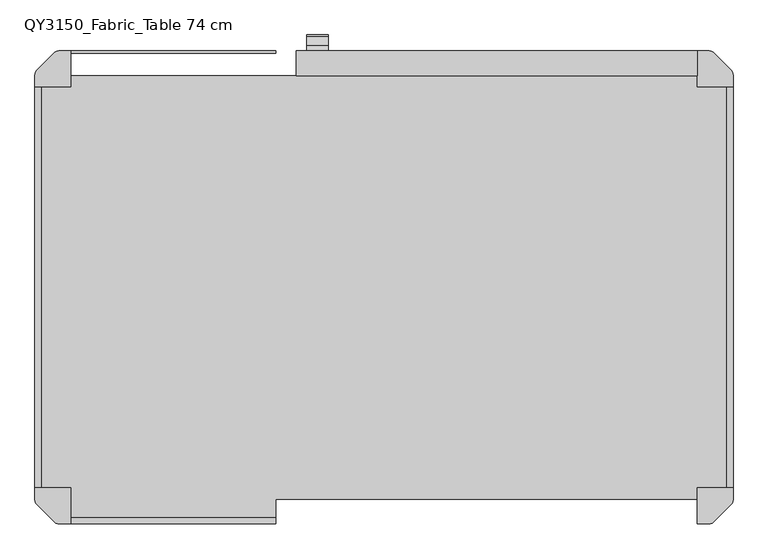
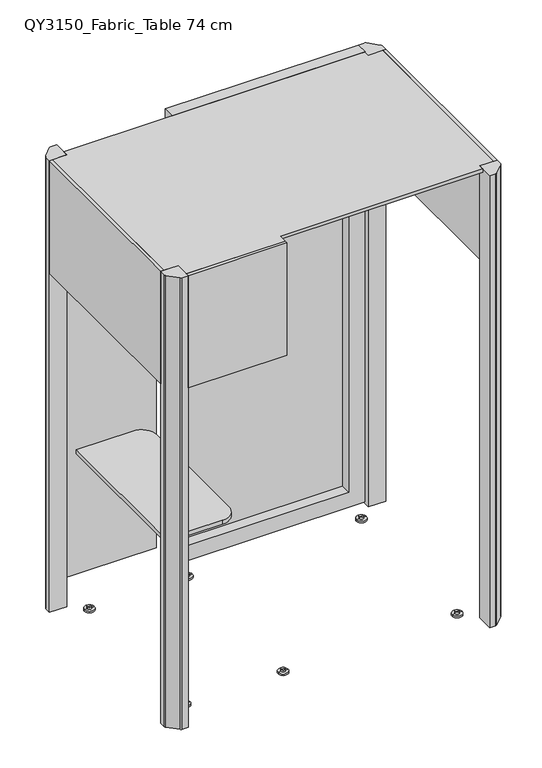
"""IFC4 building model written with IfcOpenShell, lengths in millimetres: furniture geometry, Qyos_150 : QY3150_Fabric_Table 74 cm."""

from ifc_helpers import new_model, si_unit, point, frame, frame_2d, origin, origin_with_axes, place, context, project, spatial, polyline, circle_curve, trimmed, segment, composite_curve, outline, extrude, source, transform, mapped, element, save
from ifc_brep_helpers import plane_surface, cylinder_surface, revolved_surface, advanced_brep


def qy3150_fabric_table_74_cm_f5e0ff44(model_context):
    return source(origin(), model_context, "Body", "SolidModel", [
        extrude(outline(composite_curve([segment(polyline([(-701.0, 358.0), (-441.0, 358.0)]), True, "CONTINUOUS"), segment(trimmed(circle_curve(frame_2d((-441.0, 288.0)), 70.0), [point((-441.0, 358.0))], [point((-371.0, 288.0))], False, "CARTESIAN"), True, "CONTINUOUS"), segment(polyline([(-371.0, 288.0), (-371.0, -288.0)]), True, "CONTINUOUS"), segment(trimmed(circle_curve(frame_2d((-441.0, -288.0)), 70.0), [point((-371.0, -288.0))], [point((-441.0, -358.0))], False, "CARTESIAN"), True, "CONTINUOUS"), segment(polyline([(-441.0, -358.0), (-701.0, -358.0), (-701.0, 358.0)]), True, "CONTINUOUS")], self_intersect=False)), frame((0.0, 0.0, 800.0), z_axis=(0.0, 0.0, 1.0), x_axis=(1.0, 0.0, 0.0)), (0.0, 0.0, 1.0), 19.0),
        advanced_brep(
        [(-124.0102042, 525.6314016, 980.9779398), (-124.0102042, 537.1968679, 985.7672556), (-124.0102042, 557.5610872, 1017.1254034), (-124.0102042, 560.5, 1025.2), (-124.0102042, 560.5, 1186.1919919), (-124.0102042, 557.7819627, 1194.5572505), (-124.0102042, 537.162848, 1226.3079029), (-124.0102042, 525.6314016, 1230.9669096), (-124.0102042, 525.6314016, 1224.0702851), (-124.0102042, 536.4262787, 1221.4167571), (-124.0102042, 553.2020658, 1196.5456299), (-124.0102042, 557.6320377, 1173.7554001), (-124.0102042, 557.6320377, 1028.7554001), (-124.0102042, 555.0438473, 1019.0961419), (-124.0102042, 537.9469969, 991.7354618), (-124.0102042, 525.6314016, 985.9647191), (-171.9580619, 525.6314016, 1230.9669096), (-171.9580619, 537.162848, 1226.3079029), (-171.9580619, 557.7819627, 1194.5572505), (-171.9580619, 560.5, 1186.1919919), (-171.9580619, 560.5, 1025.2), (-171.9580619, 557.5610872, 1017.1254034), (-171.9580619, 537.1968679, 985.7672556), (-171.9580619, 525.6314016, 980.9779398), (-169.2887865, 525.6314016, 985.9647191), (-169.2887865, 525.6314016, 1224.0702851), (-169.2887865, 537.9469969, 991.7354618), (-169.2887865, 555.0438473, 1019.0961419), (-169.2887865, 557.6320377, 1028.7554001), (-169.2887865, 557.6320377, 1173.7554001), (-169.2887865, 553.2020658, 1196.5456299), (-169.2887865, 536.4262787, 1221.4167571)],
        [
            (0, 1, circle_curve(frame((-124.0102042, 527.6091735, 992.560998), z_axis=(1.0, 0.0, 0.0), x_axis=(0.0, 1.0, 0.0)), 11.7506945)),
            (1, 2, circle_curve(frame((-124.0102042, 160.5394908, 1252.6628295), z_axis=(1.0, 0.0, 0.0), x_axis=(0.0, 1.0, 0.0)), 461.6319174)),
            (2, 3, circle_curve(frame((-124.0102042, 513.525418, 1037.7252129), z_axis=(1.0, 0.0, 0.0), x_axis=(0.0, 1.0, 0.0)), 48.615762)),
            (3, 4),
            (4, 5, circle_curve(frame((-124.0102042, 541.7589098, 1184.7268438), z_axis=(1.0, 0.0, 0.0), x_axis=(0.0, 1.0, 0.0)), 18.7982744)),
            (5, 6, circle_curve(frame((-124.0102042, -71.0762231, 808.7424006), z_axis=(1.0, 0.0, 0.0), x_axis=(0.0, 1.0, 0.0)), 737.777552)),
            (6, 7, circle_curve(frame((-124.0102042, 527.4087289, 1218.7657801), z_axis=(1.0, 0.0, 0.0), x_axis=(0.0, 1.0, 0.0)), 12.3299009)),
            (7, 8),
            (8, 9, circle_curve(frame((-124.0102042, 525.6314016, 1200.7860796), z_axis=(-1.0, 0.0, 0.0), x_axis=(0.0, 1.0, 0.0)), 23.2842055)),
            (9, 10, circle_curve(frame((-124.0102042, 812.3576761, 1389.4415655), z_axis=(1.0, 0.0, 0.0), x_axis=(0.0, 1.0, 0.0)), 323.0641922)),
            (10, 11, circle_curve(frame((-124.0102042, 496.7942676, 1173.7554001), z_axis=(-1.0, 0.0, 0.0), x_axis=(0.0, 1.0, 0.0)), 60.8377701)),
            (11, 12),
            (12, 13, circle_curve(frame((-124.0102042, 540.0644692, 1028.286235), z_axis=(-1.0, 0.0, 0.0), x_axis=(0.0, 1.0, 0.0)), 17.5738323)),
            (13, 14, circle_curve(frame((-124.0102042, -1120.4570487, 2047.0433119), z_axis=(-1.0, 0.0, 0.0), x_axis=(0.0, 1.0, 0.0)), 1965.7005461)),
            (14, 15, circle_curve(frame((-124.0102042, 525.4805644, 1002.3136249), z_axis=(-1.0, 0.0, 0.0), x_axis=(0.0, 1.0, 0.0)), 16.3496016)),
            (15, 0),
            (16, 17, circle_curve(frame((-171.9580619, 527.4087289, 1218.7657801), z_axis=(-1.0, 0.0, 0.0), x_axis=(0.0, 1.0, 0.0)), 12.3299009)),
            (17, 18, circle_curve(frame((-171.9580619, -71.0762231, 808.7424006), z_axis=(-1.0, 0.0, 0.0), x_axis=(0.0, 1.0, 0.0)), 737.777552)),
            (18, 19, circle_curve(frame((-171.9580619, 541.7589098, 1184.7268438), z_axis=(-1.0, 0.0, 0.0), x_axis=(0.0, 1.0, 0.0)), 18.7982744)),
            (19, 20),
            (20, 21, circle_curve(frame((-171.9580619, 513.525418, 1037.7252129), z_axis=(-1.0, 0.0, 0.0), x_axis=(0.0, 1.0, 0.0)), 48.615762)),
            (21, 22, circle_curve(frame((-171.9580619, 160.5394908, 1252.6628295), z_axis=(-1.0, 0.0, 0.0), x_axis=(0.0, 1.0, 0.0)), 461.6319174)),
            (22, 23, circle_curve(frame((-171.9580619, 527.6091735, 992.560998), z_axis=(-1.0, 0.0, 0.0), x_axis=(0.0, 1.0, 0.0)), 11.7506945)),
            (23, 16),
            (23, 0),
            (15, 24),
            (24, 25),
            (25, 8),
            (7, 16),
            (22, 1),
            (21, 2),
            (20, 3),
            (19, 4),
            (18, 5),
            (17, 6),
            (26, 27, circle_curve(frame((-169.2887865, -1120.4570487, 2047.0433119), z_axis=(1.0, 0.0, 0.0), x_axis=(0.0, 1.0, 0.0)), 1965.7005461)),
            (27, 28, circle_curve(frame((-169.2887865, 540.0644692, 1028.286235), z_axis=(1.0, 0.0, 0.0), x_axis=(0.0, 1.0, 0.0)), 17.5738323)),
            (28, 29),
            (29, 30, circle_curve(frame((-169.2887865, 496.7942676, 1173.7554001), z_axis=(1.0, 0.0, 0.0), x_axis=(0.0, 1.0, 0.0)), 60.8377701)),
            (30, 31, circle_curve(frame((-169.2887865, 812.3576761, 1389.4415655), z_axis=(-1.0, 0.0, 0.0), x_axis=(0.0, 1.0, 0.0)), 323.0641922)),
            (31, 25, circle_curve(frame((-169.2887865, 525.6314016, 1200.7860796), z_axis=(1.0, 0.0, 0.0), x_axis=(0.0, 1.0, 0.0)), 23.2842055)),
            (24, 26, circle_curve(frame((-169.2887865, 525.4805644, 1002.3136249), z_axis=(1.0, 0.0, 0.0), x_axis=(0.0, 1.0, 0.0)), 16.3496016)),
            (14, 26),
            (13, 27),
            (12, 28),
            (11, 29),
            (10, 30),
            (9, 31),
        ],
        [
            plane_surface(frame((-124.0102042, 525.6314016, 980.9779398), z_axis=(1.0, 0.0, 0.0), x_axis=(0.0, 0.0, -1.0))),
            plane_surface(frame((-171.9580619, 525.6314016, 980.9779398), z_axis=(-1.0, 0.0, 0.0), x_axis=(0.0, 0.0, 1.0))),
            plane_surface(frame((-124.0102042, 525.6314016, 1230.9669096), z_axis=(0.0, -1.0, 0.0), x_axis=(-1.0, 0.0, 0.0))),
            cylinder_surface(frame((-171.9580619, 527.6091735, 992.560998), z_axis=(1.0, 0.0, 0.0), x_axis=(0.0, 1.0, 0.0)), 11.7506945),
            cylinder_surface(frame((-171.9580619, 160.5394908, 1252.6628295), z_axis=(1.0, 0.0, 0.0), x_axis=(0.0, 1.0, 0.0)), 461.6319174),
            cylinder_surface(frame((-171.9580619, 513.525418, 1037.7252129), z_axis=(1.0, 0.0, 0.0), x_axis=(0.0, 1.0, 0.0)), 48.615762),
            plane_surface(frame((-124.0102042, 560.5, 1025.2), z_axis=(0.0, 1.0, 0.0), x_axis=(-1.0, 0.0, 0.0))),
            cylinder_surface(frame((-171.9580619, 541.7589098, 1184.7268438), z_axis=(1.0, 0.0, 0.0), x_axis=(0.0, 1.0, 0.0)), 18.7982744),
            cylinder_surface(frame((-171.9580619, -71.0762231, 808.7424006), z_axis=(1.0, 0.0, 0.0), x_axis=(0.0, 1.0, 0.0)), 737.777552),
            cylinder_surface(frame((-171.9580619, 527.4087289, 1218.7657801), z_axis=(1.0, 0.0, 0.0), x_axis=(0.0, 1.0, 0.0)), 12.3299009),
            plane_surface(frame((-169.2887865, 511.7185794, 1224.0702851), z_axis=(1.0, 0.0, 0.0), x_axis=(0.0, 0.0, 1.0))),
            revolved_surface(polyline([(-124.0102042, 541.8301660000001, 1002.3136249), (-169.2887865, 541.8301660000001, 1002.3136249)]), (-169.2887865, 525.4805644, 1002.3136249), (1.0, 0.0, 0.0)),
            revolved_surface(polyline([(-124.0102042, 845.2434974, 2047.0433119), (-169.2887865, 845.2434974, 2047.0433119)]), (-169.2887865, -1120.4570487, 2047.0433119), (1.0, 0.0, 0.0)),
            revolved_surface(polyline([(-124.0102042, 557.6383015, 1028.286235), (-169.2887865, 557.6383015, 1028.286235)]), (-169.2887865, 540.0644692, 1028.286235), (1.0, 0.0, 0.0)),
            plane_surface(frame((-116.8041752, 557.6320377, 1028.7554001), z_axis=(0.0, -1.0, 0.0), x_axis=(-1.0, 0.0, 0.0))),
            revolved_surface(polyline([(-124.0102042, 557.6320377, 1173.7554001), (-169.2887865, 557.6320377, 1173.7554001)]), (-169.2887865, 496.7942676, 1173.7554001), (1.0, 0.0, 0.0)),
            cylinder_surface(frame((-169.2887865, 812.3576761, 1389.4415655), z_axis=(-1.0, 0.0, 0.0), x_axis=(0.0, 1.0, 0.0)), 323.0641922),
            revolved_surface(polyline([(-124.0102042, 548.9156071, 1200.7860796), (-169.2887865, 548.9156071, 1200.7860796)]), (-169.2887865, 525.6314016, 1200.7860796), (1.0, 0.0, 0.0)),
        ],
        [
            (0, [[1, 2, 3, 4, 5, 6, 7, 8, 9, 10, 11, 12, 13, 14, 15, 16]]),
            (1, [[17, 18, 19, 20, 21, 22, 23, 24]]),
            (2, [[-24, 25, -16, 26, 27, 28, -8, 29]]),
            (3, [[-1, -25, -23, 30]]),
            (4, [[-2, -30, -22, 31]]),
            (5, [[-3, -31, -21, 32]]),
            (6, [[-4, -32, -20, 33]]),
            (7, [[-5, -33, -19, 34]]),
            (8, [[-6, -34, -18, 35]]),
            (9, [[-7, -35, -17, -29]]),
            (10, [[36, 37, 38, 39, 40, 41, -27, 42]]),
            (11, [[-42, -26, -15, 43]]),
            (12, [[-36, -43, -14, 44]]),
            (13, [[-37, -44, -13, 45]]),
            (14, [[-38, -45, -12, 46]]),
            (15, [[-39, -46, -11, 47]]),
            (16, [[-40, -47, -10, 48]]),
            (17, [[-41, -48, -9, -28]]),
        ],
    ),
        extrude(outline(composite_curve([segment(polyline([(1230.9669096, -127.0104804), (1230.9669096, -166.9737674)]), True, "CONTINUOUS"), segment(trimmed(circle_curve(frame_2d((1225.973762, -166.9737674)), 4.9931477), [point((1230.9669096, -166.9737674))], [point((1225.973762, -171.966915))], False, "CARTESIAN"), True, "CONTINUOUS"), segment(polyline([(1225.973762, -171.966915), (985.9710874, -171.966915)]), True, "CONTINUOUS"), segment(trimmed(circle_curve(frame_2d((985.9710874, -166.9737674)), 4.9931477), [point((985.9710874, -171.966915))], [point((980.9779398, -166.9737674))], False, "CARTESIAN"), True, "CONTINUOUS"), segment(polyline([(980.9779398, -166.9737674), (980.9779398, -127.008286)]), True, "CONTINUOUS"), segment(trimmed(circle_curve(frame_2d((983.9760215, -127.008286)), 2.9980817), [point((980.9779398, -127.008286))], [point((983.9760215, -124.0102042))], False, "CARTESIAN"), True, "CONTINUOUS"), segment(polyline([(983.9760215, -124.0102042), (985.9777208, -124.0102042)]), True, "CONTINUOUS"), segment(trimmed(circle_curve(frame_2d((985.9777208, -126.2607973)), 2.2505931), [point((985.9777208, -124.0102042))], [point((988.1941223, -125.8699859))], False, "CARTESIAN"), True, "CONTINUOUS"), segment(trimmed(circle_curve(frame_2d((1002.686839, -125.065358)), 14.5150358), [point((988.1941223, -125.8699859))], [point((999.6402401, -139.2570632))], True, "CARTESIAN"), True, "CONTINUOUS"), segment(trimmed(circle_curve(frame_2d((999.3564071, -147.27634)), 8.0242982), [point((999.6402401, -139.2570632))], [point((1007.3803501, -147.3518321))], False, "CARTESIAN"), True, "CONTINUOUS"), segment(trimmed(circle_curve(frame_2d((984.8527266, -150.8883916)), 22.803532), [point((1007.3803501, -147.3518321))], [point((1007.3098217, -154.8481834))], False, "CARTESIAN"), True, "CONTINUOUS"), segment(trimmed(circle_curve(frame_2d((1018.7344643, -156.8626561)), 11.600886), [point((1007.3098217, -154.8481834))], [point((1018.7344643, -168.4635421))], True, "CARTESIAN"), True, "CONTINUOUS"), segment(polyline([(1018.7344643, -168.4635421), (1193.2103851, -168.4635421)]), True, "CONTINUOUS"), segment(trimmed(circle_curve(frame_2d((1193.2103851, -156.4965825)), 11.9669596), [point((1193.2103851, -168.4635421))], [point((1205.1773447, -156.4965825))], True, "CARTESIAN"), True, "CONTINUOUS"), segment(polyline([(1205.1773447, -156.4965825), (1205.1773447, -147.9646776)]), True, "CONTINUOUS"), segment(trimmed(circle_curve(frame_2d((1213.8757406, -147.9646776)), 8.6983958), [point((1205.1773447, -147.9646776))], [point((1212.36528, -139.3984299))], False, "CARTESIAN"), True, "CONTINUOUS"), segment(trimmed(circle_curve(frame_2d((1209.9037954, -125.4386571)), 14.1751248), [point((1212.36528, -139.3984299))], [point((1224.0702851, -125.9333618))], True, "CARTESIAN"), True, "CONTINUOUS"), segment(trimmed(circle_curve(frame_2d((1225.9934427, -125.9333618)), 1.9231576), [point((1224.0702851, -125.9333618))], [point((1225.9934427, -124.0102042))], False, "CARTESIAN"), True, "CONTINUOUS"), segment(polyline([(1225.9934427, -124.0102042), (1227.9666334, -124.0102042)]), True, "CONTINUOUS"), segment(trimmed(circle_curve(frame_2d((1227.9666334, -127.0104804)), 3.0002762), [point((1227.9666334, -124.0102042))], [point((1230.9669096, -127.0104804))], False, "CARTESIAN"), True, "CONTINUOUS")], self_intersect=False)), frame((0.0, 525.0, 0.0), z_axis=(0.0, 1.0, 0.0), x_axis=(0.0, 0.0, 1.0)), (0.0, 0.0, 1.0), 0.6314016),
        advanced_brep(
        [(-124.0102042, 469.3642803, 980.9779398), (-124.0102042, 469.3642803, 985.9647191), (-124.0102042, 457.048685, 991.7354618), (-124.0102042, 439.9518346, 1019.0961419), (-124.0102042, 437.3636441, 1028.7554001), (-124.0102042, 437.3636441, 1173.7554001), (-124.0102042, 441.7936161, 1196.5456299), (-124.0102042, 458.5694032, 1221.4167571), (-124.0102042, 469.3642803, 1224.0702851), (-124.0102042, 469.3642803, 1230.9669096), (-124.0102042, 457.8328339, 1226.3079029), (-124.0102042, 437.2137192, 1194.5572505), (-124.0102042, 434.4956819, 1186.1919919), (-124.0102042, 434.4956819, 1025.2), (-124.0102042, 437.4345947, 1017.1254034), (-124.0102042, 457.798814, 985.7672556), (-171.9580619, 469.3642803, 1230.9669096), (-171.9580619, 469.3642803, 980.9779398), (-171.9580619, 457.798814, 985.7672556), (-171.9580619, 437.4345947, 1017.1254034), (-171.9580619, 434.4956819, 1025.2), (-171.9580619, 434.4956819, 1186.1919919), (-171.9580619, 437.2137192, 1194.5572505), (-171.9580619, 457.8328339, 1226.3079029), (-169.2887865, 469.3642803, 1224.0702851), (-169.2887865, 469.3642803, 985.9647191), (-169.2887865, 457.048685, 991.7354618), (-169.2887865, 458.5694032, 1221.4167571), (-169.2887865, 441.7936161, 1196.5456299), (-169.2887865, 437.3636441, 1173.7554001), (-169.2887865, 437.3636441, 1028.7554001), (-169.2887865, 439.9518346, 1019.0961419)],
        [
            (0, 1),
            (1, 2, circle_curve(frame((-124.0102042, 469.5151175, 1002.3136249), z_axis=(-1.0, 0.0, 0.0), x_axis=(0.0, -1.0, 0.0)), 16.3496016)),
            (2, 3, circle_curve(frame((-124.0102042, 2115.4527306, 2047.0433119), z_axis=(-1.0, 0.0, 0.0), x_axis=(0.0, -1.0, 0.0)), 1965.7005461)),
            (3, 4, circle_curve(frame((-124.0102042, 454.9312127, 1028.286235), z_axis=(-1.0, 0.0, 0.0), x_axis=(0.0, -1.0, 0.0)), 17.5738323)),
            (4, 5),
            (5, 6, circle_curve(frame((-124.0102042, 498.2014142, 1173.7554001), z_axis=(-1.0, 0.0, 0.0), x_axis=(0.0, -1.0, 0.0)), 60.8377701)),
            (6, 7, circle_curve(frame((-124.0102042, 182.6380058, 1389.4415655), z_axis=(1.0, 0.0, 0.0), x_axis=(0.0, -1.0, 0.0)), 323.0641922)),
            (7, 8, circle_curve(frame((-124.0102042, 469.3642803, 1200.7860796), z_axis=(-1.0, 0.0, 0.0), x_axis=(0.0, -1.0, 0.0)), 23.2842055)),
            (8, 9),
            (9, 10, circle_curve(frame((-124.0102042, 467.586953, 1218.7657801), z_axis=(1.0, 0.0, 0.0), x_axis=(0.0, -1.0, 0.0)), 12.3299009)),
            (10, 11, circle_curve(frame((-124.0102042, 1066.071905, 808.7424006), z_axis=(1.0, 0.0, 0.0), x_axis=(0.0, -1.0, 0.0)), 737.777552)),
            (11, 12, circle_curve(frame((-124.0102042, 453.236772, 1184.7268438), z_axis=(1.0, 0.0, 0.0), x_axis=(0.0, -1.0, 0.0)), 18.7982744)),
            (12, 13),
            (13, 14, circle_curve(frame((-124.0102042, 481.4702639, 1037.7252129), z_axis=(1.0, 0.0, 0.0), x_axis=(0.0, -1.0, 0.0)), 48.615762)),
            (14, 15, circle_curve(frame((-124.0102042, 834.4561911, 1252.6628295), z_axis=(1.0, 0.0, 0.0), x_axis=(0.0, -1.0, 0.0)), 461.6319174)),
            (15, 0, circle_curve(frame((-124.0102042, 467.3865084, 992.560998), z_axis=(1.0, 0.0, 0.0), x_axis=(0.0, -1.0, 0.0)), 11.7506945)),
            (16, 17),
            (17, 18, circle_curve(frame((-171.9580619, 467.3865084, 992.560998), z_axis=(-1.0, 0.0, 0.0), x_axis=(0.0, -1.0, 0.0)), 11.7506945)),
            (18, 19, circle_curve(frame((-171.9580619, 834.4561911, 1252.6628295), z_axis=(-1.0, 0.0, 0.0), x_axis=(0.0, -1.0, 0.0)), 461.6319174)),
            (19, 20, circle_curve(frame((-171.9580619, 481.4702639, 1037.7252129), z_axis=(-1.0, 0.0, 0.0), x_axis=(0.0, -1.0, 0.0)), 48.615762)),
            (20, 21),
            (21, 22, circle_curve(frame((-171.9580619, 453.236772, 1184.7268438), z_axis=(-1.0, 0.0, 0.0), x_axis=(0.0, -1.0, 0.0)), 18.7982744)),
            (22, 23, circle_curve(frame((-171.9580619, 1066.071905, 808.7424006), z_axis=(-1.0, 0.0, 0.0), x_axis=(0.0, -1.0, 0.0)), 737.777552)),
            (23, 16, circle_curve(frame((-171.9580619, 467.586953, 1218.7657801), z_axis=(-1.0, 0.0, 0.0), x_axis=(0.0, -1.0, 0.0)), 12.3299009)),
            (16, 9),
            (8, 24),
            (24, 25),
            (25, 1),
            (0, 17),
            (15, 18),
            (14, 19),
            (13, 20),
            (12, 21),
            (11, 22),
            (10, 23),
            (26, 25, circle_curve(frame((-169.2887865, 469.5151175, 1002.3136249), z_axis=(1.0, 0.0, 0.0), x_axis=(0.0, -1.0, 0.0)), 16.3496016)),
            (24, 27, circle_curve(frame((-169.2887865, 469.3642803, 1200.7860796), z_axis=(1.0, 0.0, 0.0), x_axis=(0.0, -1.0, 0.0)), 23.2842055)),
            (27, 28, circle_curve(frame((-169.2887865, 182.6380058, 1389.4415655), z_axis=(-1.0, 0.0, 0.0), x_axis=(0.0, -1.0, 0.0)), 323.0641922)),
            (28, 29, circle_curve(frame((-169.2887865, 498.2014142, 1173.7554001), z_axis=(1.0, 0.0, 0.0), x_axis=(0.0, -1.0, 0.0)), 60.8377701)),
            (29, 30),
            (30, 31, circle_curve(frame((-169.2887865, 454.9312127, 1028.286235), z_axis=(1.0, 0.0, 0.0), x_axis=(0.0, -1.0, 0.0)), 17.5738323)),
            (31, 26, circle_curve(frame((-169.2887865, 2115.4527306, 2047.0433119), z_axis=(1.0, 0.0, 0.0), x_axis=(0.0, -1.0, 0.0)), 1965.7005461)),
            (26, 2),
            (31, 3),
            (30, 4),
            (29, 5),
            (28, 6),
            (27, 7),
        ],
        [
            plane_surface(frame((-124.0102042, 469.3642803, 980.9779398), z_axis=(1.0, 0.0, 0.0), x_axis=(0.0, 0.0, -1.0))),
            plane_surface(frame((-171.9580619, 469.3642803, 980.9779398), z_axis=(-1.0, 0.0, 0.0), x_axis=(0.0, 0.0, 1.0))),
            plane_surface(frame((-124.0102042, 469.3642803, 1230.9669096), z_axis=(0.0, 1.0, 0.0), x_axis=(-1.0, 0.0, 0.0))),
            cylinder_surface(frame((-171.9580619, 467.3865084, 992.560998), z_axis=(1.0, 0.0, 0.0), x_axis=(0.0, -1.0, 0.0)), 11.7506945),
            cylinder_surface(frame((-171.9580619, 834.4561911, 1252.6628295), z_axis=(1.0, 0.0, 0.0), x_axis=(0.0, -1.0, 0.0)), 461.6319174),
            cylinder_surface(frame((-171.9580619, 481.4702639, 1037.7252129), z_axis=(1.0, 0.0, 0.0), x_axis=(0.0, -1.0, 0.0)), 48.615762),
            plane_surface(frame((-124.0102042, 434.4956819, 1025.2), z_axis=(0.0, -1.0, 0.0), x_axis=(-1.0, 0.0, 0.0))),
            cylinder_surface(frame((-171.9580619, 453.236772, 1184.7268438), z_axis=(1.0, 0.0, 0.0), x_axis=(0.0, -1.0, 0.0)), 18.7982744),
            cylinder_surface(frame((-171.9580619, 1066.071905, 808.7424006), z_axis=(1.0, 0.0, 0.0), x_axis=(0.0, -1.0, 0.0)), 737.777552),
            cylinder_surface(frame((-171.9580619, 467.586953, 1218.7657801), z_axis=(1.0, 0.0, 0.0), x_axis=(0.0, -1.0, 0.0)), 12.3299009),
            plane_surface(frame((-169.2887865, 483.2771024, 1224.0702851), z_axis=(1.0, 0.0, 0.0), x_axis=(0.0, 0.0, 1.0))),
            revolved_surface(polyline([(-124.0102042, 453.16551589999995, 1002.3136249), (-169.2887865, 453.16551589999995, 1002.3136249)]), (-169.2887865, 469.5151175, 1002.3136249), (1.0, 0.0, 0.0)),
            revolved_surface(polyline([(-124.0102042, 149.75218449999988, 2047.0433119), (-169.2887865, 149.75218449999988, 2047.0433119)]), (-169.2887865, 2115.4527306, 2047.0433119), (1.0, 0.0, 0.0)),
            revolved_surface(polyline([(-124.0102042, 437.3573804, 1028.286235), (-169.2887865, 437.3573804, 1028.286235)]), (-169.2887865, 454.9312127, 1028.286235), (1.0, 0.0, 0.0)),
            plane_surface(frame((-116.8041752, 437.3636441, 1028.7554001), z_axis=(0.0, 1.0, 0.0), x_axis=(-1.0, 0.0, 0.0))),
            revolved_surface(polyline([(-124.0102042, 437.3636441, 1173.7554001), (-169.2887865, 437.3636441, 1173.7554001)]), (-169.2887865, 498.2014142, 1173.7554001), (1.0, 0.0, 0.0)),
            cylinder_surface(frame((-169.2887865, 182.6380058, 1389.4415655), z_axis=(-1.0, 0.0, 0.0), x_axis=(0.0, -1.0, 0.0)), 323.0641922),
            revolved_surface(polyline([(-124.0102042, 446.08007480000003, 1200.7860796), (-169.2887865, 446.08007480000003, 1200.7860796)]), (-169.2887865, 469.3642803, 1200.7860796), (1.0, 0.0, 0.0)),
        ],
        [
            (0, [[1, 2, 3, 4, 5, 6, 7, 8, 9, 10, 11, 12, 13, 14, 15, 16]]),
            (1, [[17, 18, 19, 20, 21, 22, 23, 24]]),
            (2, [[25, -9, 26, 27, 28, -1, 29, -17]]),
            (3, [[30, -18, -29, -16]]),
            (4, [[31, -19, -30, -15]]),
            (5, [[32, -20, -31, -14]]),
            (6, [[33, -21, -32, -13]]),
            (7, [[34, -22, -33, -12]]),
            (8, [[35, -23, -34, -11]]),
            (9, [[-25, -24, -35, -10]]),
            (10, [[36, -27, 37, 38, 39, 40, 41, 42]]),
            (11, [[43, -2, -28, -36]]),
            (12, [[44, -3, -43, -42]]),
            (13, [[45, -4, -44, -41]]),
            (14, [[46, -5, -45, -40]]),
            (15, [[47, -6, -46, -39]]),
            (16, [[48, -7, -47, -38]]),
            (17, [[-26, -8, -48, -37]]),
        ],
    ),
        extrude(outline(composite_curve([segment(polyline([(1230.9669096, -127.0104804), (1230.9669096, -166.9737674)]), True, "CONTINUOUS"), segment(trimmed(circle_curve(frame_2d((1225.973762, -166.9737674)), 4.9931477), [point((1230.9669096, -166.9737674))], [point((1225.973762, -171.966915))], False, "CARTESIAN"), True, "CONTINUOUS"), segment(polyline([(1225.973762, -171.966915), (985.9710874, -171.966915)]), True, "CONTINUOUS"), segment(trimmed(circle_curve(frame_2d((985.9710874, -166.9737674)), 4.9931477), [point((985.9710874, -171.966915))], [point((980.9779398, -166.9737674))], False, "CARTESIAN"), True, "CONTINUOUS"), segment(polyline([(980.9779398, -166.9737674), (980.9779398, -127.008286)]), True, "CONTINUOUS"), segment(trimmed(circle_curve(frame_2d((983.9760215, -127.008286)), 2.9980817), [point((980.9779398, -127.008286))], [point((983.9760215, -124.0102042))], False, "CARTESIAN"), True, "CONTINUOUS"), segment(polyline([(983.9760215, -124.0102042), (985.9777208, -124.0102042)]), True, "CONTINUOUS"), segment(trimmed(circle_curve(frame_2d((985.9777208, -126.2607973)), 2.2505931), [point((985.9777208, -124.0102042))], [point((988.1941223, -125.8699859))], False, "CARTESIAN"), True, "CONTINUOUS"), segment(trimmed(circle_curve(frame_2d((1002.686839, -125.065358)), 14.5150358), [point((988.1941223, -125.8699859))], [point((999.6402401, -139.2570632))], True, "CARTESIAN"), True, "CONTINUOUS"), segment(trimmed(circle_curve(frame_2d((999.3564071, -147.27634)), 8.0242982), [point((999.6402401, -139.2570632))], [point((1007.3803501, -147.3518321))], False, "CARTESIAN"), True, "CONTINUOUS"), segment(trimmed(circle_curve(frame_2d((984.8527266, -150.8883916)), 22.803532), [point((1007.3803501, -147.3518321))], [point((1007.3098217, -154.8481834))], False, "CARTESIAN"), True, "CONTINUOUS"), segment(trimmed(circle_curve(frame_2d((1018.7344643, -156.8626561)), 11.600886), [point((1007.3098217, -154.8481834))], [point((1018.7344643, -168.4635421))], True, "CARTESIAN"), True, "CONTINUOUS"), segment(polyline([(1018.7344643, -168.4635421), (1193.2103851, -168.4635421)]), True, "CONTINUOUS"), segment(trimmed(circle_curve(frame_2d((1193.2103851, -156.4965825)), 11.9669596), [point((1193.2103851, -168.4635421))], [point((1205.1773447, -156.4965825))], True, "CARTESIAN"), True, "CONTINUOUS"), segment(polyline([(1205.1773447, -156.4965825), (1205.1773447, -147.9646776)]), True, "CONTINUOUS"), segment(trimmed(circle_curve(frame_2d((1213.8757406, -147.9646776)), 8.6983958), [point((1205.1773447, -147.9646776))], [point((1212.36528, -139.3984299))], False, "CARTESIAN"), True, "CONTINUOUS"), segment(trimmed(circle_curve(frame_2d((1209.9037954, -125.4386571)), 14.1751248), [point((1212.36528, -139.3984299))], [point((1224.0702851, -125.9333618))], True, "CARTESIAN"), True, "CONTINUOUS"), segment(trimmed(circle_curve(frame_2d((1225.9934427, -125.9333618)), 1.9231576), [point((1224.0702851, -125.9333618))], [point((1225.9934427, -124.0102042))], False, "CARTESIAN"), True, "CONTINUOUS"), segment(polyline([(1225.9934427, -124.0102042), (1227.9666334, -124.0102042)]), True, "CONTINUOUS"), segment(trimmed(circle_curve(frame_2d((1227.9666334, -127.0104804)), 3.0002762), [point((1227.9666334, -124.0102042))], [point((1230.9669096, -127.0104804))], False, "CARTESIAN"), True, "CONTINUOUS")], self_intersect=False)), frame((0.0, 469.3642803, 0.0), z_axis=(0.0, 1.0, 0.0), x_axis=(0.0, 0.0, 1.0)), (0.0, 0.0, 1.0), 0.6314016),
        extrude(outline(polyline([(619.5749028, 525.0), (619.5749028, 520.0), (-119.4250972, 520.0), (-119.4250972, 525.0), (619.5749028, 525.0)])), frame((0.0, 0.0, 82.0), z_axis=(0.0, 0.0, 1.0), x_axis=(1.0, 0.0, 0.0)), (0.0, 0.0, 1.0), 2040.1),
        extrude(outline(polyline([(10.0, -194.9250972), (10.0, 695.0749028), (2202.1, 695.0749028), (2202.1, -194.9250972), (10.0, -194.9250972)]), holes=[polyline([(82.0, 619.5749028), (82.0, -119.4250972), (2122.1, -119.4250972), (2122.1, 619.5749028), (82.0, 619.5749028)])]), frame((0.0, 469.9956819, 0.0), z_axis=(0.0, 1.0, 0.0), x_axis=(0.0, 0.0, 1.0)), (0.0, 0.0, 1.0), 55.0043181),
        advanced_brep(
        [(603.8585356, 382.0, 0.0), (627.0, 382.0, 0.0), (650.1414644, 382.0, 0.0), (603.8585356, 382.0, 7.0), (650.1414644, 382.0, 7.0), (617.3615446, 382.0, 7.0), (636.6384554, 382.0, 7.0), (617.3615446, 382.0, 17.0), (636.6384554, 382.0, 17.0), (627.0, 382.0, 17.0)],
        [
            (0, 1),
            (1, 2),
            (2, 0, circle_curve(frame((627.0, 382.0, 0.0), z_axis=(0.0, 0.0, -1.0), x_axis=(1.0, 0.0, 0.0)), 23.1414644)),
            (0, 2, circle_curve(frame((627.0, 382.0, 0.0), z_axis=(0.0, 0.0, -1.0), x_axis=(1.0, 0.0, 0.0)), 23.1414644)),
            (3, 0),
            (2, 4),
            (4, 3, circle_curve(frame((627.0, 382.0, 7.0), z_axis=(0.0, 0.0, -1.0), x_axis=(1.0, 0.0, 0.0)), 23.1414644)),
            (3, 4, circle_curve(frame((627.0, 382.0, 7.0), z_axis=(0.0, 0.0, -1.0), x_axis=(1.0, 0.0, 0.0)), 23.1414644)),
            (5, 3),
            (4, 6),
            (6, 5, circle_curve(frame((627.0, 382.0, 7.0), z_axis=(0.0, 0.0, -1.0), x_axis=(1.0, 0.0, 0.0)), 9.6384554)),
            (5, 6, circle_curve(frame((627.0, 382.0, 7.0), z_axis=(0.0, 0.0, -1.0), x_axis=(1.0, 0.0, 0.0)), 9.6384554)),
            (7, 5),
            (6, 8),
            (8, 7, circle_curve(frame((627.0, 382.0, 17.0), z_axis=(0.0, 0.0, -1.0), x_axis=(1.0, 0.0, 0.0)), 9.6384554)),
            (7, 8, circle_curve(frame((627.0, 382.0, 17.0), z_axis=(0.0, 0.0, -1.0), x_axis=(1.0, 0.0, 0.0)), 9.6384554)),
            (9, 7),
            (8, 9),
        ],
        [
            plane_surface(frame((627.0, 382.0, 0.0), z_axis=(0.0, 0.0, -1.0), x_axis=(1.0, 0.0, 0.0))),
            cylinder_surface(frame((627.0, 382.0, 1997.4144888), z_axis=(0.0, 0.0, 1.0), x_axis=(1.0, 0.0, 0.0)), 23.1414644),
            plane_surface(frame((627.0, 382.0, 7.0), z_axis=(0.0, 0.0, 1.0), x_axis=(1.0, 0.0, 0.0))),
            cylinder_surface(frame((627.0, 382.0, 1997.4144888), z_axis=(0.0, 0.0, 1.0), x_axis=(1.0, 0.0, 0.0)), 9.6384554),
            plane_surface(frame((627.0, 382.0, 17.0), z_axis=(0.0, 0.0, 1.0), x_axis=(1.0, 0.0, 0.0))),
        ],
        [
            (0, [[1, 2, 3]]),
            (0, [[-2, -1, 4]]),
            (1, [[5, -3, 6, 7]]),
            (1, [[-6, -4, -5, 8]]),
            (2, [[9, -7, 10, 11]]),
            (2, [[-10, -8, -9, 12]]),
            (3, [[13, -11, 14, 15]]),
            (3, [[-14, -12, -13, 16]]),
            (4, [[17, -15, 18]]),
            (4, [[-18, -16, -17]]),
        ],
    ),
        extrude(outline(composite_curve([segment(trimmed(circle_curve(frame_2d((627.0, 382.0)), 23.1414644), [point((603.8585356, 382.0))], [point((650.1414644, 382.0))], False, "CARTESIAN"), True, "CONTINUOUS"), segment(trimmed(circle_curve(frame_2d((627.0, 382.0)), 23.1414644), [point((650.1414644, 382.0))], [point((603.8585356, 382.0))], False, "CARTESIAN"), True, "CONTINUOUS")], self_intersect=False)), origin_with_axes(), (0.0, 0.0, 1.0), 7.0),
        advanced_brep(
        [(-198.1414644, 382.0, 0.0), (-175.0, 382.0, 0.0), (-151.8585356, 382.0, 0.0), (-198.1414644, 382.0, 7.0), (-151.8585356, 382.0, 7.0), (-184.6384554, 382.0, 7.0), (-165.3615446, 382.0, 7.0), (-184.6384554, 382.0, 17.0), (-165.3615446, 382.0, 17.0), (-175.0, 382.0, 17.0)],
        [
            (0, 1),
            (1, 2),
            (2, 0, circle_curve(frame((-175.0, 382.0, 0.0), z_axis=(0.0, 0.0, -1.0), x_axis=(1.0, 0.0, 0.0)), 23.1414644)),
            (0, 2, circle_curve(frame((-175.0, 382.0, 0.0), z_axis=(0.0, 0.0, -1.0), x_axis=(1.0, 0.0, 0.0)), 23.1414644)),
            (3, 0),
            (2, 4),
            (4, 3, circle_curve(frame((-175.0, 382.0, 7.0), z_axis=(0.0, 0.0, -1.0), x_axis=(1.0, 0.0, 0.0)), 23.1414644)),
            (3, 4, circle_curve(frame((-175.0, 382.0, 7.0), z_axis=(0.0, 0.0, -1.0), x_axis=(1.0, 0.0, 0.0)), 23.1414644)),
            (5, 3),
            (4, 6),
            (6, 5, circle_curve(frame((-175.0, 382.0, 7.0), z_axis=(0.0, 0.0, -1.0), x_axis=(1.0, 0.0, 0.0)), 9.6384554)),
            (5, 6, circle_curve(frame((-175.0, 382.0, 7.0), z_axis=(0.0, 0.0, -1.0), x_axis=(1.0, 0.0, 0.0)), 9.6384554)),
            (7, 5),
            (6, 8),
            (8, 7, circle_curve(frame((-175.0, 382.0, 17.0), z_axis=(0.0, 0.0, -1.0), x_axis=(1.0, 0.0, 0.0)), 9.6384554)),
            (7, 8, circle_curve(frame((-175.0, 382.0, 17.0), z_axis=(0.0, 0.0, -1.0), x_axis=(1.0, 0.0, 0.0)), 9.6384554)),
            (9, 7),
            (8, 9),
        ],
        [
            plane_surface(frame((-175.0, 382.0, 0.0), z_axis=(0.0, 0.0, -1.0), x_axis=(1.0, 0.0, 0.0))),
            cylinder_surface(frame((-175.0, 382.0, 1997.4144888), z_axis=(0.0, 0.0, 1.0), x_axis=(1.0, 0.0, 0.0)), 23.1414644),
            plane_surface(frame((-175.0, 382.0, 7.0), z_axis=(0.0, 0.0, 1.0), x_axis=(1.0, 0.0, 0.0))),
            cylinder_surface(frame((-175.0, 382.0, 1997.4144888), z_axis=(0.0, 0.0, 1.0), x_axis=(1.0, 0.0, 0.0)), 9.6384554),
            plane_surface(frame((-175.0, 382.0, 17.0), z_axis=(0.0, 0.0, 1.0), x_axis=(1.0, 0.0, 0.0))),
        ],
        [
            (0, [[1, 2, 3]]),
            (0, [[-2, -1, 4]]),
            (1, [[5, -3, 6, 7]]),
            (1, [[-6, -4, -5, 8]]),
            (2, [[9, -7, 10, 11]]),
            (2, [[-10, -8, -9, 12]]),
            (3, [[13, -11, 14, 15]]),
            (3, [[-14, -12, -13, 16]]),
            (4, [[17, -15, 18]]),
            (4, [[-18, -16, -17]]),
        ],
    ),
        extrude(outline(composite_curve([segment(trimmed(circle_curve(frame_2d((-175.0, 382.0)), 23.1414644), [point((-198.1414644, 382.0))], [point((-151.8585356, 382.0))], False, "CARTESIAN"), True, "CONTINUOUS"), segment(trimmed(circle_curve(frame_2d((-175.0, 382.0)), 23.1414644), [point((-151.8585356, 382.0))], [point((-198.1414644, 382.0))], False, "CARTESIAN"), True, "CONTINUOUS")], self_intersect=False)), origin_with_axes(), (0.0, 0.0, 1.0), 7.0),
        advanced_brep(
        [(-650.1414644, 382.0, 0.0), (-627.0, 382.0, 0.0), (-603.8585356, 382.0, 0.0), (-650.1414644, 382.0, 7.0), (-603.8585356, 382.0, 7.0), (-636.6384554, 382.0, 7.0), (-617.3615446, 382.0, 7.0), (-636.6384554, 382.0, 17.0), (-617.3615446, 382.0, 17.0), (-627.0, 382.0, 17.0)],
        [
            (0, 1),
            (1, 2),
            (2, 0, circle_curve(frame((-627.0, 382.0, 0.0), z_axis=(0.0, 0.0, -1.0), x_axis=(1.0, 0.0, 0.0)), 23.1414644)),
            (0, 2, circle_curve(frame((-627.0, 382.0, 0.0), z_axis=(0.0, 0.0, -1.0), x_axis=(1.0, 0.0, 0.0)), 23.1414644)),
            (3, 0),
            (2, 4),
            (4, 3, circle_curve(frame((-627.0, 382.0, 7.0), z_axis=(0.0, 0.0, -1.0), x_axis=(1.0, 0.0, 0.0)), 23.1414644)),
            (3, 4, circle_curve(frame((-627.0, 382.0, 7.0), z_axis=(0.0, 0.0, -1.0), x_axis=(1.0, 0.0, 0.0)), 23.1414644)),
            (5, 3),
            (4, 6),
            (6, 5, circle_curve(frame((-627.0, 382.0, 7.0), z_axis=(0.0, 0.0, -1.0), x_axis=(1.0, 0.0, 0.0)), 9.6384554)),
            (5, 6, circle_curve(frame((-627.0, 382.0, 7.0), z_axis=(0.0, 0.0, -1.0), x_axis=(1.0, 0.0, 0.0)), 9.6384554)),
            (7, 5),
            (6, 8),
            (8, 7, circle_curve(frame((-627.0, 382.0, 17.0), z_axis=(0.0, 0.0, -1.0), x_axis=(1.0, 0.0, 0.0)), 9.6384554)),
            (7, 8, circle_curve(frame((-627.0, 382.0, 17.0), z_axis=(0.0, 0.0, -1.0), x_axis=(1.0, 0.0, 0.0)), 9.6384554)),
            (9, 7),
            (8, 9),
        ],
        [
            plane_surface(frame((-627.0, 382.0, 0.0), z_axis=(0.0, 0.0, -1.0), x_axis=(1.0, 0.0, 0.0))),
            cylinder_surface(frame((-627.0, 382.0, 1997.4144888), z_axis=(0.0, 0.0, 1.0), x_axis=(1.0, 0.0, 0.0)), 23.1414644),
            plane_surface(frame((-627.0, 382.0, 7.0), z_axis=(0.0, 0.0, 1.0), x_axis=(1.0, 0.0, 0.0))),
            cylinder_surface(frame((-627.0, 382.0, 1997.4144888), z_axis=(0.0, 0.0, 1.0), x_axis=(1.0, 0.0, 0.0)), 9.6384554),
            plane_surface(frame((-627.0, 382.0, 17.0), z_axis=(0.0, 0.0, 1.0), x_axis=(1.0, 0.0, 0.0))),
        ],
        [
            (0, [[1, 2, 3]]),
            (0, [[-2, -1, 4]]),
            (1, [[5, -3, 6, 7]]),
            (1, [[-6, -4, -5, 8]]),
            (2, [[9, -7, 10, 11]]),
            (2, [[-10, -8, -9, 12]]),
            (3, [[13, -11, 14, 15]]),
            (3, [[-14, -12, -13, 16]]),
            (4, [[17, -15, 18]]),
            (4, [[-18, -16, -17]]),
        ],
    ),
        extrude(outline(composite_curve([segment(trimmed(circle_curve(frame_2d((-627.0, 382.0)), 23.1414644), [point((-650.1414644, 382.0))], [point((-603.8585356, 382.0))], False, "CARTESIAN"), True, "CONTINUOUS"), segment(trimmed(circle_curve(frame_2d((-627.0, 382.0)), 23.1414644), [point((-603.8585356, 382.0))], [point((-650.1414644, 382.0))], False, "CARTESIAN"), True, "CONTINUOUS")], self_intersect=False)), origin_with_axes(), (0.0, 0.0, 1.0), 7.0),
        advanced_brep(
        [(-650.1414644, -382.0, 0.0), (-627.0, -382.0, 0.0), (-603.8585356, -382.0, 0.0), (-650.1414644, -382.0, 7.0), (-603.8585356, -382.0, 7.0), (-636.6384554, -382.0, 7.0), (-617.3615446, -382.0, 7.0), (-636.6384554, -382.0, 17.0), (-617.3615446, -382.0, 17.0), (-627.0, -382.0, 17.0)],
        [
            (0, 1),
            (1, 2),
            (2, 0, circle_curve(frame((-627.0, -382.0, 0.0), z_axis=(0.0, 0.0, -1.0), x_axis=(1.0, 0.0, 0.0)), 23.1414644)),
            (0, 2, circle_curve(frame((-627.0, -382.0, 0.0), z_axis=(0.0, 0.0, -1.0), x_axis=(1.0, 0.0, 0.0)), 23.1414644)),
            (3, 0),
            (2, 4),
            (4, 3, circle_curve(frame((-627.0, -382.0, 7.0), z_axis=(0.0, 0.0, -1.0), x_axis=(1.0, 0.0, 0.0)), 23.1414644)),
            (3, 4, circle_curve(frame((-627.0, -382.0, 7.0), z_axis=(0.0, 0.0, -1.0), x_axis=(1.0, 0.0, 0.0)), 23.1414644)),
            (5, 3),
            (4, 6),
            (6, 5, circle_curve(frame((-627.0, -382.0, 7.0), z_axis=(0.0, 0.0, -1.0), x_axis=(1.0, 0.0, 0.0)), 9.6384554)),
            (5, 6, circle_curve(frame((-627.0, -382.0, 7.0), z_axis=(0.0, 0.0, -1.0), x_axis=(1.0, 0.0, 0.0)), 9.6384554)),
            (7, 5),
            (6, 8),
            (8, 7, circle_curve(frame((-627.0, -382.0, 17.0), z_axis=(0.0, 0.0, -1.0), x_axis=(1.0, 0.0, 0.0)), 9.6384554)),
            (7, 8, circle_curve(frame((-627.0, -382.0, 17.0), z_axis=(0.0, 0.0, -1.0), x_axis=(1.0, 0.0, 0.0)), 9.6384554)),
            (9, 7),
            (8, 9),
        ],
        [
            plane_surface(frame((-627.0, -382.0, 0.0), z_axis=(0.0, 0.0, -1.0), x_axis=(1.0, 0.0, 0.0))),
            cylinder_surface(frame((-627.0, -382.0, 1997.4144888), z_axis=(0.0, 0.0, 1.0), x_axis=(1.0, 0.0, 0.0)), 23.1414644),
            plane_surface(frame((-627.0, -382.0, 7.0), z_axis=(0.0, 0.0, 1.0), x_axis=(1.0, 0.0, 0.0))),
            cylinder_surface(frame((-627.0, -382.0, 1997.4144888), z_axis=(0.0, 0.0, 1.0), x_axis=(1.0, 0.0, 0.0)), 9.6384554),
            plane_surface(frame((-627.0, -382.0, 17.0), z_axis=(0.0, 0.0, 1.0), x_axis=(1.0, 0.0, 0.0))),
        ],
        [
            (0, [[1, 2, 3]]),
            (0, [[-2, -1, 4]]),
            (1, [[5, -3, 6, 7]]),
            (1, [[-6, -4, -5, 8]]),
            (2, [[9, -7, 10, 11]]),
            (2, [[-10, -8, -9, 12]]),
            (3, [[13, -11, 14, 15]]),
            (3, [[-14, -12, -13, 16]]),
            (4, [[17, -15, 18]]),
            (4, [[-18, -16, -17]]),
        ],
    ),
        extrude(outline(composite_curve([segment(trimmed(circle_curve(frame_2d((-627.0, -382.0)), 23.1414644), [point((-650.1414644, -382.0))], [point((-603.8585356, -382.0))], False, "CARTESIAN"), True, "CONTINUOUS"), segment(trimmed(circle_curve(frame_2d((-627.0, -382.0)), 23.1414644), [point((-603.8585356, -382.0))], [point((-650.1414644, -382.0))], False, "CARTESIAN"), True, "CONTINUOUS")], self_intersect=False)), origin_with_axes(), (0.0, 0.0, 1.0), 7.0),
        advanced_brep(
        [(-198.1414644, -382.0, 0.0), (-175.0, -382.0, 0.0), (-151.8585356, -382.0, 0.0), (-198.1414644, -382.0, 7.0), (-151.8585356, -382.0, 7.0), (-184.6384554, -382.0, 7.0), (-165.3615446, -382.0, 7.0), (-184.6384554, -382.0, 17.0), (-165.3615446, -382.0, 17.0), (-175.0, -382.0, 17.0)],
        [
            (0, 1),
            (1, 2),
            (2, 0, circle_curve(frame((-175.0, -382.0, 0.0), z_axis=(0.0, 0.0, -1.0), x_axis=(1.0, 0.0, 0.0)), 23.1414644)),
            (0, 2, circle_curve(frame((-175.0, -382.0, 0.0), z_axis=(0.0, 0.0, -1.0), x_axis=(1.0, 0.0, 0.0)), 23.1414644)),
            (3, 0),
            (2, 4),
            (4, 3, circle_curve(frame((-175.0, -382.0, 7.0), z_axis=(0.0, 0.0, -1.0), x_axis=(1.0, 0.0, 0.0)), 23.1414644)),
            (3, 4, circle_curve(frame((-175.0, -382.0, 7.0), z_axis=(0.0, 0.0, -1.0), x_axis=(1.0, 0.0, 0.0)), 23.1414644)),
            (5, 3),
            (4, 6),
            (6, 5, circle_curve(frame((-175.0, -382.0, 7.0), z_axis=(0.0, 0.0, -1.0), x_axis=(1.0, 0.0, 0.0)), 9.6384554)),
            (5, 6, circle_curve(frame((-175.0, -382.0, 7.0), z_axis=(0.0, 0.0, -1.0), x_axis=(1.0, 0.0, 0.0)), 9.6384554)),
            (7, 5),
            (6, 8),
            (8, 7, circle_curve(frame((-175.0, -382.0, 17.0), z_axis=(0.0, 0.0, -1.0), x_axis=(1.0, 0.0, 0.0)), 9.6384554)),
            (7, 8, circle_curve(frame((-175.0, -382.0, 17.0), z_axis=(0.0, 0.0, -1.0), x_axis=(1.0, 0.0, 0.0)), 9.6384554)),
            (9, 7),
            (8, 9),
        ],
        [
            plane_surface(frame((-175.0, -382.0, 0.0), z_axis=(0.0, 0.0, -1.0), x_axis=(1.0, 0.0, 0.0))),
            cylinder_surface(frame((-175.0, -382.0, 1997.4144888), z_axis=(0.0, 0.0, 1.0), x_axis=(1.0, 0.0, 0.0)), 23.1414644),
            plane_surface(frame((-175.0, -382.0, 7.0), z_axis=(0.0, 0.0, 1.0), x_axis=(1.0, 0.0, 0.0))),
            cylinder_surface(frame((-175.0, -382.0, 1997.4144888), z_axis=(0.0, 0.0, 1.0), x_axis=(1.0, 0.0, 0.0)), 9.6384554),
            plane_surface(frame((-175.0, -382.0, 17.0), z_axis=(0.0, 0.0, 1.0), x_axis=(1.0, 0.0, 0.0))),
        ],
        [
            (0, [[1, 2, 3]]),
            (0, [[-2, -1, 4]]),
            (1, [[5, -3, 6, 7]]),
            (1, [[-6, -4, -5, 8]]),
            (2, [[9, -7, 10, 11]]),
            (2, [[-10, -8, -9, 12]]),
            (3, [[13, -11, 14, 15]]),
            (3, [[-14, -12, -13, 16]]),
            (4, [[17, -15, 18]]),
            (4, [[-18, -16, -17]]),
        ],
    ),
        extrude(outline(composite_curve([segment(trimmed(circle_curve(frame_2d((-175.0, -382.0)), 23.1414644), [point((-198.1414644, -382.0))], [point((-151.8585356, -382.0))], False, "CARTESIAN"), True, "CONTINUOUS"), segment(trimmed(circle_curve(frame_2d((-175.0, -382.0)), 23.1414644), [point((-151.8585356, -382.0))], [point((-198.1414644, -382.0))], False, "CARTESIAN"), True, "CONTINUOUS")], self_intersect=False)), origin_with_axes(), (0.0, 0.0, 1.0), 7.0),
        advanced_brep(
        [(603.8585356, -382.0, 0.0), (627.0, -382.0, 0.0), (650.1414644, -382.0, 0.0), (603.8585356, -382.0, 7.0), (650.1414644, -382.0, 7.0), (617.3615446, -382.0, 7.0), (636.6384554, -382.0, 7.0), (617.3615446, -382.0, 17.0), (636.6384554, -382.0, 17.0), (627.0, -382.0, 17.0)],
        [
            (0, 1),
            (1, 2),
            (2, 0, circle_curve(frame((627.0, -382.0, 0.0), z_axis=(0.0, 0.0, -1.0), x_axis=(1.0, 0.0, 0.0)), 23.1414644)),
            (0, 2, circle_curve(frame((627.0, -382.0, 0.0), z_axis=(0.0, 0.0, -1.0), x_axis=(1.0, 0.0, 0.0)), 23.1414644)),
            (3, 0),
            (2, 4),
            (4, 3, circle_curve(frame((627.0, -382.0, 7.0), z_axis=(0.0, 0.0, -1.0), x_axis=(1.0, 0.0, 0.0)), 23.1414644)),
            (3, 4, circle_curve(frame((627.0, -382.0, 7.0), z_axis=(0.0, 0.0, -1.0), x_axis=(1.0, 0.0, 0.0)), 23.1414644)),
            (5, 3),
            (4, 6),
            (6, 5, circle_curve(frame((627.0, -382.0, 7.0), z_axis=(0.0, 0.0, -1.0), x_axis=(1.0, 0.0, 0.0)), 9.6384554)),
            (5, 6, circle_curve(frame((627.0, -382.0, 7.0), z_axis=(0.0, 0.0, -1.0), x_axis=(1.0, 0.0, 0.0)), 9.6384554)),
            (7, 5),
            (6, 8),
            (8, 7, circle_curve(frame((627.0, -382.0, 17.0), z_axis=(0.0, 0.0, -1.0), x_axis=(1.0, 0.0, 0.0)), 9.6384554)),
            (7, 8, circle_curve(frame((627.0, -382.0, 17.0), z_axis=(0.0, 0.0, -1.0), x_axis=(1.0, 0.0, 0.0)), 9.6384554)),
            (9, 7),
            (8, 9),
        ],
        [
            plane_surface(frame((627.0, -382.0, 0.0), z_axis=(0.0, 0.0, -1.0), x_axis=(1.0, 0.0, 0.0))),
            cylinder_surface(frame((627.0, -382.0, 1997.4144888), z_axis=(0.0, 0.0, 1.0), x_axis=(1.0, 0.0, 0.0)), 23.1414644),
            plane_surface(frame((627.0, -382.0, 7.0), z_axis=(0.0, 0.0, 1.0), x_axis=(1.0, 0.0, 0.0))),
            cylinder_surface(frame((627.0, -382.0, 1997.4144888), z_axis=(0.0, 0.0, 1.0), x_axis=(1.0, 0.0, 0.0)), 9.6384554),
            plane_surface(frame((627.0, -382.0, 17.0), z_axis=(0.0, 0.0, 1.0), x_axis=(1.0, 0.0, 0.0))),
        ],
        [
            (0, [[1, 2, 3]]),
            (0, [[-2, -1, 4]]),
            (1, [[5, -3, 6, 7]]),
            (1, [[-6, -4, -5, 8]]),
            (2, [[9, -7, 10, 11]]),
            (2, [[-10, -8, -9, 12]]),
            (3, [[13, -11, 14, 15]]),
            (3, [[-14, -12, -13, 16]]),
            (4, [[17, -15, 18]]),
            (4, [[-18, -16, -17]]),
        ],
    ),
        extrude(outline(composite_curve([segment(trimmed(circle_curve(frame_2d((627.0, -382.0)), 23.1414644), [point((603.8585356, -382.0))], [point((650.1414644, -382.0))], False, "CARTESIAN"), True, "CONTINUOUS"), segment(trimmed(circle_curve(frame_2d((627.0, -382.0)), 23.1414644), [point((650.1414644, -382.0))], [point((603.8585356, -382.0))], False, "CARTESIAN"), True, "CONTINUOUS")], self_intersect=False)), origin_with_axes(), (0.0, 0.0, 1.0), 7.0),
        extrude(outline(composite_curve([segment(polyline([(-695.0, -445.0), (-695.0, -525.0), (-722.5902872, -525.0)]), True, "CONTINUOUS"), segment(trimmed(circle_curve(frame_2d((-722.3110114, -513.0032502)), 12.0), [point((-722.5902872, -525.0))], [point((-730.4763607, -521.7968315))], False, "CARTESIAN"), True, "CONTINUOUS"), segment(trimmed(circle_curve(frame_2d((-193.4303831, 56.568803)), 789.2560985), [point((-730.4763607, -521.7968315))], [point((-771.7960176, -480.4771745))], False, "CARTESIAN"), True, "CONTINUOUS"), segment(trimmed(circle_curve(frame_2d((-763.0024364, -472.3118252)), 12.0), [point((-771.7960176, -480.4771745))], [point((-775.0, -472.5536246))], False, "CARTESIAN"), True, "CONTINUOUS"), segment(polyline([(-775.0, -472.5536246), (-775.0, -445.0), (-695.0, -445.0)]), True, "CONTINUOUS")], self_intersect=False)), origin_with_axes(), (0.0, 0.0, 1.0), 2202.1),
        extrude(outline(composite_curve([segment(polyline([(695.0, -445.0), (775.0, -445.0), (775.0, -472.5902872)]), True, "CONTINUOUS"), segment(trimmed(circle_curve(frame_2d((763.0032502, -472.3110114)), 12.0), [point((775.0, -472.5902872))], [point((771.7968315, -480.4763607))], False, "CARTESIAN"), True, "CONTINUOUS"), segment(trimmed(circle_curve(frame_2d((193.431197, 56.5696169)), 789.2560985), [point((771.7968315, -480.4763607))], [point((730.4771745, -521.7960176))], False, "CARTESIAN"), True, "CONTINUOUS"), segment(trimmed(circle_curve(frame_2d((722.3118252, -513.0024364)), 12.0), [point((730.4771745, -521.7960176))], [point((722.5536246, -525.0))], False, "CARTESIAN"), True, "CONTINUOUS"), segment(polyline([(722.5536246, -525.0), (695.0, -525.0), (695.0, -445.0)]), True, "CONTINUOUS")], self_intersect=False)), origin_with_axes(), (0.0, 0.0, 1.0), 2202.1),
        extrude(outline(composite_curve([segment(polyline([(695.0, 445.0), (695.0, 525.0), (722.5902872, 525.0)]), True, "CONTINUOUS"), segment(trimmed(circle_curve(frame_2d((722.3110114, 513.0032502)), 12.0), [point((722.5902872, 525.0))], [point((730.4763607, 521.7968315))], False, "CARTESIAN"), True, "CONTINUOUS"), segment(trimmed(circle_curve(frame_2d((193.4303831, -56.568803)), 789.2560985), [point((730.4763607, 521.7968315))], [point((771.7960176, 480.4771745))], False, "CARTESIAN"), True, "CONTINUOUS"), segment(trimmed(circle_curve(frame_2d((763.0024364, 472.3118252)), 12.0), [point((771.7960176, 480.4771745))], [point((775.0, 472.5536246))], False, "CARTESIAN"), True, "CONTINUOUS"), segment(polyline([(775.0, 472.5536246), (775.0, 445.0), (695.0, 445.0)]), True, "CONTINUOUS")], self_intersect=False)), origin_with_axes(), (0.0, 0.0, 1.0), 2202.1),
        extrude(outline(composite_curve([segment(polyline([(-695.0, 445.0), (-775.0, 445.0), (-775.0, 472.5902872)]), True, "CONTINUOUS"), segment(trimmed(circle_curve(frame_2d((-763.0032502, 472.3110114)), 12.0), [point((-775.0, 472.5902872))], [point((-771.7968315, 480.4763607))], False, "CARTESIAN"), True, "CONTINUOUS"), segment(trimmed(circle_curve(frame_2d((-193.431197, -56.5696169)), 789.2560985), [point((-771.7968315, 480.4763607))], [point((-730.4771745, 521.7960176))], False, "CARTESIAN"), True, "CONTINUOUS"), segment(trimmed(circle_curve(frame_2d((-722.3118252, 513.0024364)), 12.0), [point((-730.4771745, 521.7960176))], [point((-722.5536246, 525.0))], False, "CARTESIAN"), True, "CONTINUOUS"), segment(polyline([(-722.5536246, 525.0), (-695.0, 525.0), (-695.0, 445.0)]), True, "CONTINUOUS")], self_intersect=False)), origin_with_axes(), (0.0, 0.0, 1.0), 2202.1),
        extrude(outline(polyline([(-775.0, 445.0), (-761.0, 445.0), (-761.0, -445.0), (-775.0, -445.0), (-775.0, 445.0)])), frame((0.0, 0.0, 1654.0116287), z_axis=(0.0, 0.0, 1.0), x_axis=(1.0, 0.0, 0.0)), (0.0, 0.0, 1.0), 548.0883713),
        extrude(outline(polyline([(775.0, 445.0), (775.0, -445.0), (761.0, -445.0), (761.0, 445.0), (775.0, 445.0)])), frame((0.0, 0.0, 1654.0116287), z_axis=(0.0, 0.0, 1.0), x_axis=(1.0, 0.0, 0.0)), (0.0, 0.0, 1.0), 548.0883713),
        extrude(outline(polyline([(-239.9562864, -525.0), (-695.0, -525.0), (-695.0, -511.0), (-239.9562864, -511.0), (-239.9562864, -525.0)])), frame((0.0, 0.0, 1654.0116287), z_axis=(0.0, 0.0, 1.0), x_axis=(1.0, 0.0, 0.0)), (0.0, 0.0, 1.0), 548.0883713),
        extrude(outline(polyline([(695.0, -470.0), (-239.9562864, -470.0), (-239.9562864, -511.0), (-695.0, -511.0), (-695.0, -445.0), (-761.0, -445.0), (-761.0, 445.0), (-695.0, 445.0), (-695.0, 469.9956819), (695.0, 469.9956819), (695.0, 445.0), (761.0, 445.0), (761.0, -445.0), (695.0, -445.0), (695.0, -470.0)])), frame((0.0, 0.0, 2186.1), z_axis=(0.0, 0.0, 1.0), x_axis=(1.0, 0.0, 0.0)), (0.0, 0.0, 1.0), 16.0),
        extrude(outline(polyline([(-239.9562864, 525.0), (-239.9562864, 520.0), (-722.5536246, 520.0), (-722.5536246, 525.0), (-239.9562864, 525.0)])), frame((0.0, 0.0, 82.0), z_axis=(0.0, 0.0, 1.0), x_axis=(1.0, 0.0, 0.0)), (0.0, 0.0, 1.0), 2040.1),
    ])


if __name__ == "__main__":
    model = new_model("IFC4")
    model_context = context("Model", 3, world=origin())
    ifc_project = project(units=[si_unit("LENGTHUNIT", "METRE", prefix="MILLI")], contexts=[model_context])
    site = spatial("IfcSite", under=ifc_project)
    building = spatial("IfcBuilding", under=site)
    placement = place(None, origin())
    qy3150_fabric_table_74_cm_shape = qy3150_fabric_table_74_cm_f5e0ff44(model_context)
    element("IfcFurniture", 1, ObjectType="Qyos_150 : QY3150_Fabric_Table 74 cm", at=placement, inside=building, context=model_context, shape_type="MappedRepresentation", body=[
        mapped(qy3150_fabric_table_74_cm_shape, transform((0.0, 0.0, 0.0), x_axis=(1.0, 0.0, 0.0), y_axis=(0.0, 1.0, 0.0), z_axis=(0.0, 0.0, 1.0))),
    ])
    save(model, "model.ifc")
